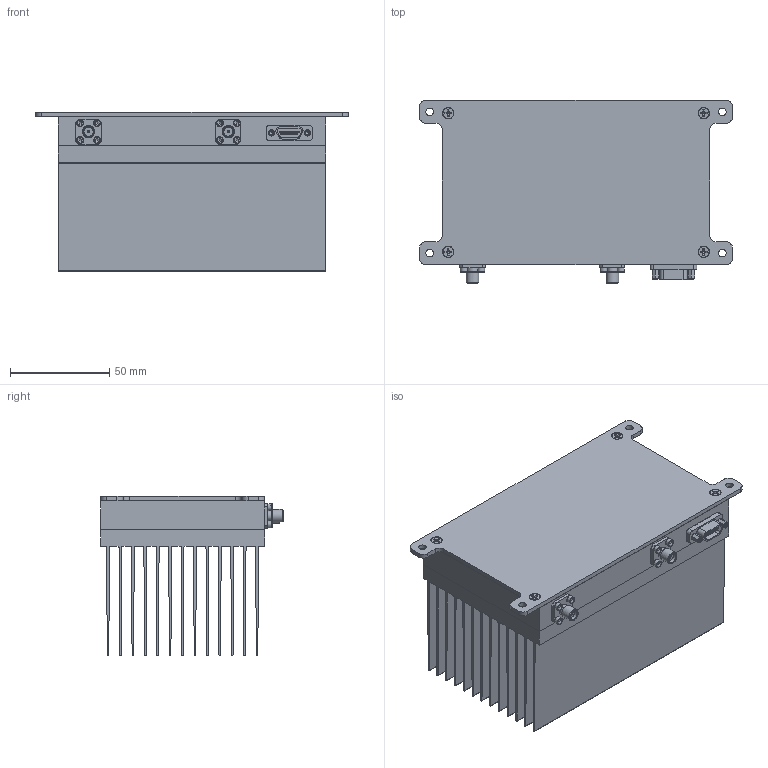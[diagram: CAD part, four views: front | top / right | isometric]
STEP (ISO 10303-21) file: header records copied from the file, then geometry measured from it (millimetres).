
FILE_DESCRIPTION((''),'2;1');
FILE_NAME('\\SERPENTOR\Engineering\ENG\Models\TTRMxxxx\TTRM1008\Inventor\OL_103-HS.stp','2015-06-11T11:07:16',('dcampbell'),(''),'Autodesk Inventor 2013','Autodesk Inventor 2013','');
FILE_SCHEMA(('AUTOMOTIVE_DESIGN { 1 0 10303 214 1 1 1 1 }'));
Length unit declared in the file: inch
Products named in the file (10): OL_103-HS; OL_103; 410-012; Hexagon Socket Head Cap Screw - Inch No. 2 - 56 UNC - 3/16; 400-072; M7-320-9505-033; T50142062; T52147141; 560-440PFH0688
Assembly tree (21 placements, depth 3):
  OL_103-HS
    OL_103
      OL_103
      410-012  x2
      Hexagon Socket Head Cap Screw - Inch No. 2 - 56 UNC - 3/16  x8
      400-072
      M7-320-9505-033  x2
    T50142062
    T52147141
    560-440PFH0688  x4
Bounding box: 157.48 x 92.08 x 80.26 mm (x, y, z)
Volume: 389627.3 mm3; surface area: 275996.4 mm2
Topology: 20 solids, 20 shells, 716 faces, 2004 edges, 1396 vertices
Faces by surface type: plane 340, cylinder 288, cone 64, torus 16, bspline 8
Full cylindrical faces by diameter (mm): 0.635 x15, 0.737 x2, 0.889 x15, 1.016 x4, 1.245 x2, 1.27 x2, 1.295 x2, 1.702 x2, 2.159 x4, 2.184 x10, 2.438 x2, 2.54 x2, 2.591 x8, 2.845 x96, 3.251 x4, 3.277 x4, 3.556 x8, 3.81 x4, 4.064 x2, 4.597 x2, 5.486 x4, 6.35 x2
Entity records: 14525 total; most frequent: CARTESIAN_POINT 4913, DIRECTION 1910, ORIENTED_EDGE 1830, EDGE_CURVE 915, AXIS2_PLACEMENT_3D 734, VERTEX_POINT 695, EDGE_LOOP 552, VECTOR 442
